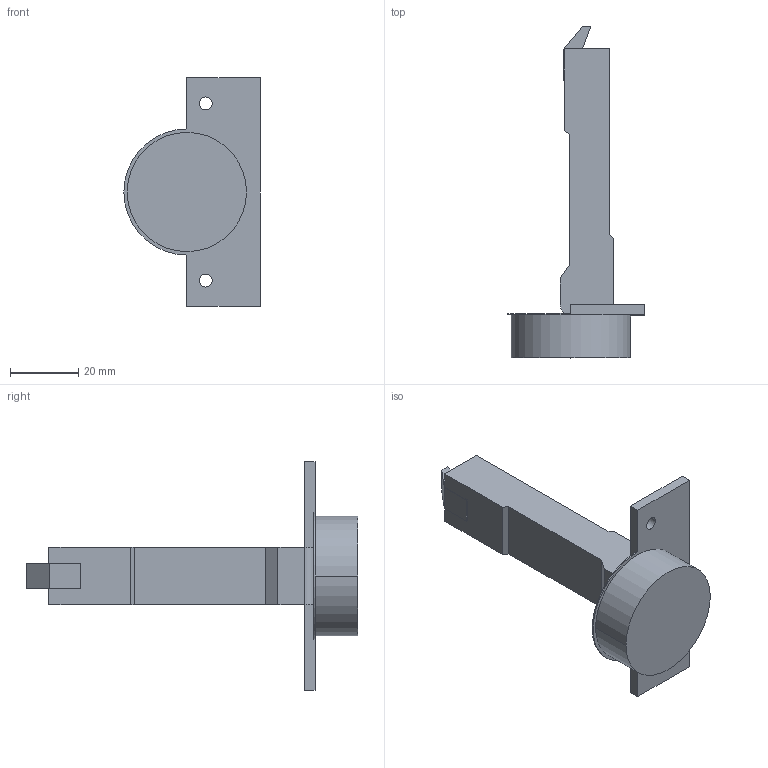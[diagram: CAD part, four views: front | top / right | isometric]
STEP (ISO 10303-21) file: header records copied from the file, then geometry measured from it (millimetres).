
FILE_DESCRIPTION (( 'STEP AP214' ), '1' );
FILE_NAME ('Scharnier T Click-on 100° H_BB.step', '2014-04-09T06:29:59', ( '' ), ( '' ), 'SwSTEP 2.0', 'SolidWorks 2013', '' );
FILE_SCHEMA (( 'AUTOMOTIVE_DESIGN' ));
Length unit declared in the file: millimetre
Products named in the file (1): Scharnier T Click-on 100° H_BB
Bounding box: 40 x 97.4 x 67 mm (x, y, z)
Volume: 33310.6 mm3; surface area: 10683.3 mm2
Topology: 1 solids, 1 shells, 47 faces, 123 edges, 82 vertices
Faces by surface type: plane 32, cylinder 15
Entity records: 1489 total; most frequent: CARTESIAN_POINT 253, DIRECTION 249, ORIENTED_EDGE 246, EDGE_CURVE 123, LINE 93, VECTOR 93, VERTEX_POINT 82, AXIS2_PLACEMENT_3D 78
